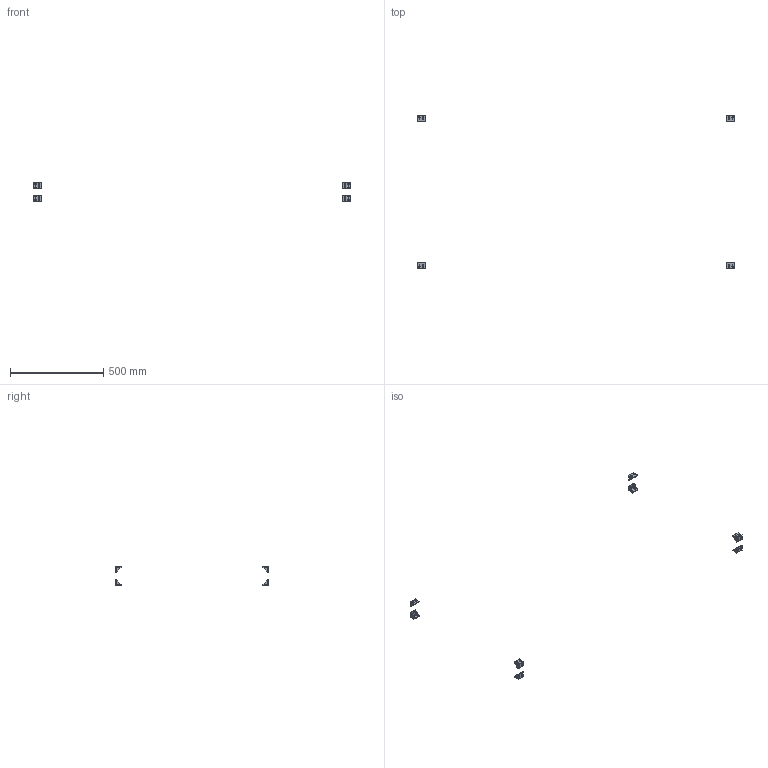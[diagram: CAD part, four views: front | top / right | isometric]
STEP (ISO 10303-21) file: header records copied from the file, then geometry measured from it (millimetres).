
FILE_DESCRIPTION(/* description */ (''),/* implementation_level */ '2;1');
FILE_NAME(/* name */ '3.frame-top#3.2#HBLFSD5',/* time_stamp */ '2014-12-01T20:11:56+01:00',/* author */ (''),/* organization */ (''),/* preprocessor_version */ 'ST-DEVELOPER v14',/* originating_system */ '',/* authorisation */ '');
FILE_SCHEMA (('AUTOMOTIVE_DESIGN'));
Length unit declared in the file: millimetre
Products named in the file (2): Document; angle bracket, semi, double
Assembly tree (4 placements, depth 2):
  Document
    angle bracket, semi, double  x4
Bounding box: 1700 x 822 x 102 mm (x, y, z)
Volume: 85620.7 mm3; surface area: 55148.5 mm2
Topology: 8 solids, 8 shells, 968 faces, 2712 edges, 1808 vertices
Faces by surface type: plane 640, bspline 328
Entity records: 39208 total; most frequent: CARTESIAN_POINT 17737, B_SPLINE_CURVE_WITH_KNOTS 3455, ORIENTED_EDGE 3390, PCURVE 3390, DEFINITIONAL_REPRESENTATION 3390, SURFACE_CURVE 1695, EDGE_CURVE 1695, VERTEX_POINT 1130
